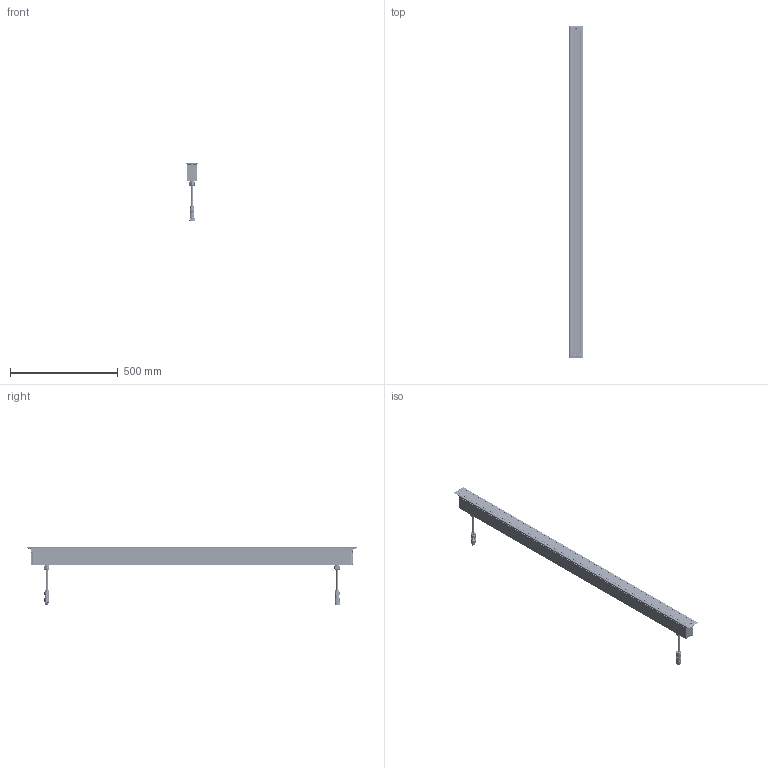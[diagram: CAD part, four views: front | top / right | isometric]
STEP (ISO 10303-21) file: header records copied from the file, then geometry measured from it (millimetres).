
FILE_DESCRIPTION(/* description */ ('Unknown'),/* implementation_level */ '2;1');
FILE_NAME(/* name */ 'ARCHILINE_A 60.7',/* time_stamp */ '2023-02-07T10:29:28+01:00',/* author */ ('Unknown'),/* organization */ ('Unknown'),/* preprocessor_version */ 'ST-DEVELOPER v18.1',/* originating_system */ 'Solid Edge',/* authorisation */ 'Unknown');
FILE_SCHEMA (('AUTOMOTIVE_DESIGN {1 0 10303 214 3 1 1}'));
Products named in the file (1): ARCHILINE_A 60
Bounding box: 62 x 1540 x 266.28 mm (x, y, z)
Volume: 1961844.3 mm3; surface area: 1249029.4 mm2
Topology: 40 solids, 45 shells, 7072 faces, 20190 edges, 13268 vertices
Faces by surface type: plane 3704, cylinder 1784, bspline 960, torus 306, cone 224, sphere 94
Full cylindrical faces by diameter (mm): 0.6 x1, 0.62 x2, 0.9 x3, 1 x61, 1.1 x6, 1.2 x9, 1.4 x2, 1.6 x2, 2 x33, 2.05 x5, 2.2 x2, 2.459 x8, 2.494 x1, 2.5 x3, 2.6 x12, 2.9 x120, 3 x14, 3.242 x5, 3.5 x4, 4 x1, 4.2 x2, 4.5 x1, 4.8 x2, 4.922 x2, 5 x2, 5.5 x1, 6 x4, 6.5 x12, 6.8 x8, 7 x2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
Entity records: 410693 total; most frequent: CARTESIAN_POINT 197877, ORIENTED_EDGE 38166, DIRECTION 32922, EDGE_CURVE 19083, VERTEX_POINT 12845, AXIS2_PLACEMENT_3D 12034, LINE 8854, VECTOR 8854
